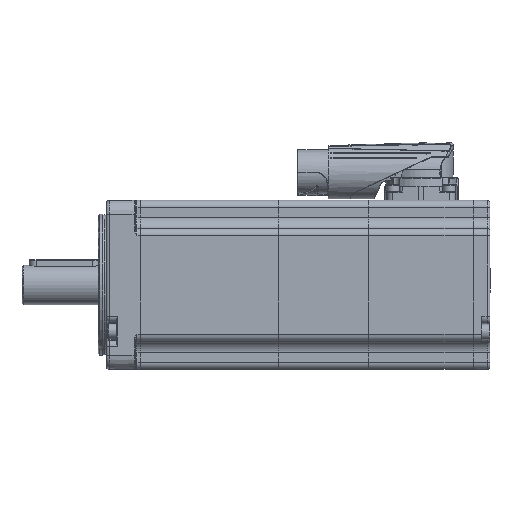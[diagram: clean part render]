
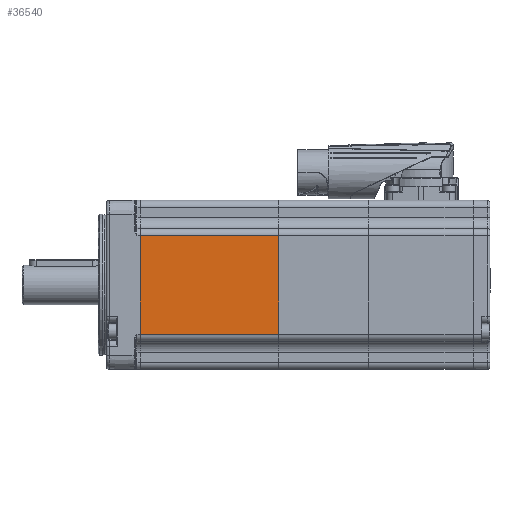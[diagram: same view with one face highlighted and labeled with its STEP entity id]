
A CAD part, left-side view. The second image highlights one B-rep face of the part: STEP entity #36540.
In plain terms, the highlighted planar face has unit normal (-1, 0, 0) as drawn and (0, 1, 0) by its records, which use the part's own axes.
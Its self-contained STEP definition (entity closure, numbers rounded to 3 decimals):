
#12065=LINE('',#63468,#14020);
#12066=LINE('',#63471,#14021);
#12067=LINE('',#63473,#14022);
#12068=LINE('',#63475,#14023);
#14020=VECTOR('',#46433,1000.);
#14021=VECTOR('',#46434,1000.);
#14022=VECTOR('',#46435,1000.);
#14023=VECTOR('',#46436,1000.);
#21746=ORIENTED_EDGE('',*,*,#25885,.T.);
#21747=ORIENTED_EDGE('',*,*,#25886,.T.);
#21748=ORIENTED_EDGE('',*,*,#25887,.T.);
#21749=ORIENTED_EDGE('',*,*,#25888,.T.);
#25885=EDGE_CURVE('',#28628,#28629,#12065,.F.);
#25886=EDGE_CURVE('',#28629,#28630,#12066,.T.);
#25887=EDGE_CURVE('',#28630,#28631,#12067,.T.);
#25888=EDGE_CURVE('',#28631,#28628,#12068,.T.);
#28628=VERTEX_POINT('',#63469);
#28629=VERTEX_POINT('',#63470);
#28630=VERTEX_POINT('',#63472);
#28631=VERTEX_POINT('',#63474);
#31832=EDGE_LOOP('',(#21746,#21747,#21748,#21749));
#34020=FACE_BOUND('',#31832,.T.);
#34891=PLANE('',#39257);
#36540=ADVANCED_FACE('',(#34020),#34891,.T.);
#39257=AXIS2_PLACEMENT_3D('',#63467,#46431,#46432);
#46431=DIRECTION('',(0.,1.,0.));
#46432=DIRECTION('',(0.,0.,1.));
#46433=DIRECTION('',(-1.,0.,0.));
#46434=DIRECTION('',(0.,0.,-1.));
#46435=DIRECTION('',(-1.,0.,0.));
#46436=DIRECTION('',(0.,0.,1.));
#63467=CARTESIAN_POINT('',(-200.,30.,-30.));
#63468=CARTESIAN_POINT('',(0.,30.,17.5));
#63469=CARTESIAN_POINT('',(-50.,30.,17.5));
#63470=CARTESIAN_POINT('',(-1.,30.,17.5));
#63471=CARTESIAN_POINT('',(-1.,30.,-30.));
#63472=CARTESIAN_POINT('',(-1.,30.,-17.5));
#63473=CARTESIAN_POINT('',(-200.,30.,-17.5));
#63474=CARTESIAN_POINT('',(-50.,30.,-17.5));
#63475=CARTESIAN_POINT('',(-50.,30.,-30.));
